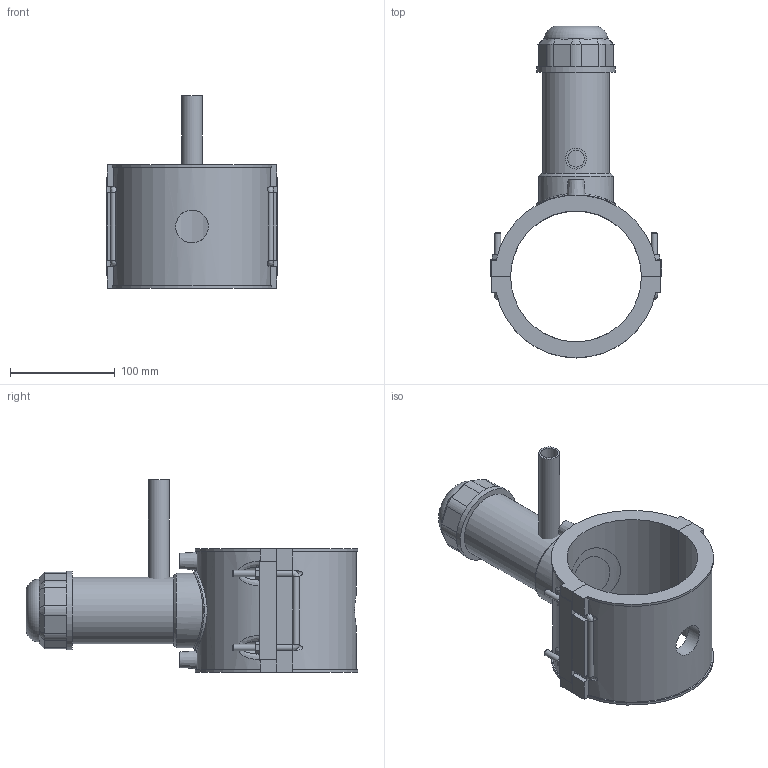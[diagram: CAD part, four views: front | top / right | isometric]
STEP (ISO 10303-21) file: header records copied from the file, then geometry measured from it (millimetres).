
FILE_DESCRIPTION(/* description */ (''),/* implementation_level */ '2;1');
FILE_NAME(/* name */ 'C:\Dropbox\KIMPROJECTS-Inventor 2019\99-16-3568-Processing\ElectroFusion Fittings\4963P4\stp\4963P4125020.stp',/* time_stamp */ '2022-03-17T11:28:24+02:00',/* author */ ('KIM'),/* organization */ (''),/* preprocessor_version */ 'ST-DEVELOPER v17.2',/* originating_system */ 'Autodesk Inventor 2019',/* authorisation */ '');
FILE_SCHEMA (('AUTOMOTIVE_DESIGN { 1 0 10303 214 3 1 1 }'));
Length unit declared in the file: millimetre
Products named in the file (1): 4963P4125020
Bounding box: 164 x 317.27 x 184 mm (x, y, z)
Volume: 1104437.7 mm3; surface area: 220961.5 mm2
Topology: 3 solids, 3 shells, 201 faces, 519 edges, 333 vertices
Faces by surface type: plane 119, cylinder 53, cone 15, bspline 13, torus 1
Full cylindrical faces by diameter (mm): 4 x2, 6 x8, 10 x2, 16 x1, 20 x1, 31.36 x1, 52.5 x1, 63.75 x1, 71.25 x1, 75 x2
Entity records: 7318 total; most frequent: CARTESIAN_POINT 2439, ORIENTED_EDGE 1022, DIRECTION 966, EDGE_CURVE 511, VERTEX_POINT 333, AXIS2_PLACEMENT_3D 331, LINE 304, VECTOR 304
